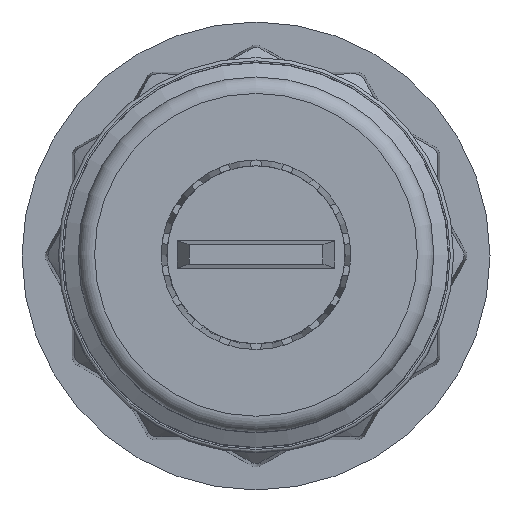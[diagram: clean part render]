
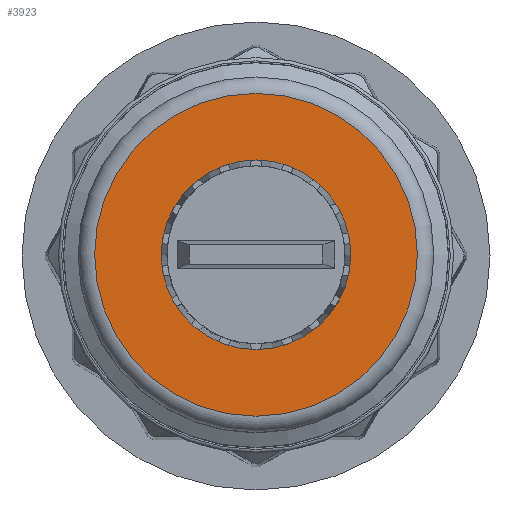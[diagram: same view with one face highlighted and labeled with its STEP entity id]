
A CAD part, top view. The second image highlights one B-rep face of the part: STEP entity #3923.
In plain terms, the highlighted planar face has unit normal (0, 0, 1).
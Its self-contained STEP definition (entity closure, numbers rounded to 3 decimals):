
#130 = AXIS2_PLACEMENT_3D ( 'NONE', #5693, #1124, #6199 ) ;
#292 = CARTESIAN_POINT ( 'NONE',  ( 0., 5.4, 24. ) ) ;
#857 = PLANE ( 'NONE',  #5792 ) ;
#871 = CARTESIAN_POINT ( 'NONE',  ( -4.9, 0., 24. ) ) ;
#1124 = DIRECTION ( 'NONE',  ( 0., 0., 1. ) ) ;
#1273 = DIRECTION ( 'NONE',  ( 0., 0., -1. ) ) ;
#1513 = CIRCLE ( 'NONE', #3391, 4.9 ) ;
#1973 = CARTESIAN_POINT ( 'NONE',  ( 0., 0., 24. ) ) ;
#2102 = EDGE_LOOP ( 'NONE', ( #4833 ) ) ;
#2221 = VERTEX_POINT ( 'NONE', #5419 ) ;
#2311 = EDGE_CURVE ( 'NONE', #2221, #2221, #6287, .T. ) ;
#2643 = EDGE_CURVE ( 'NONE', #4784, #4784, #1513, .T. ) ;
#2747 = FACE_OUTER_BOUND ( 'NONE', #5079, .T. ) ;
#3281 = ORIENTED_EDGE ( 'NONE', *, *, #2643, .T. ) ;
#3391 = AXIS2_PLACEMENT_3D ( 'NONE', #1973, #5993, #6494 ) ;
#3923 = ADVANCED_FACE ( 'NONE', ( #2747, #5613 ), #857, .F. ) ;
#4784 = VERTEX_POINT ( 'NONE', #871 ) ;
#4833 = ORIENTED_EDGE ( 'NONE', *, *, #2311, .F. ) ;
#5079 = EDGE_LOOP ( 'NONE', ( #3281 ) ) ;
#5419 = CARTESIAN_POINT ( 'NONE',  ( 2.879, 0., 24. ) ) ;
#5427 = DIRECTION ( 'NONE',  ( -1., 0., 0. ) ) ;
#5613 = FACE_BOUND ( 'NONE', #2102, .T. ) ;
#5693 = CARTESIAN_POINT ( 'NONE',  ( 0., 0., 24. ) ) ;
#5792 = AXIS2_PLACEMENT_3D ( 'NONE', #292, #1273, #5427 ) ;
#5993 = DIRECTION ( 'NONE',  ( 0., 0., 1. ) ) ;
#6199 = DIRECTION ( 'NONE',  ( 1., 0., 0. ) ) ;
#6287 = CIRCLE ( 'NONE', #130, 2.879 ) ;
#6494 = DIRECTION ( 'NONE',  ( -1., 0., 0. ) ) ;
